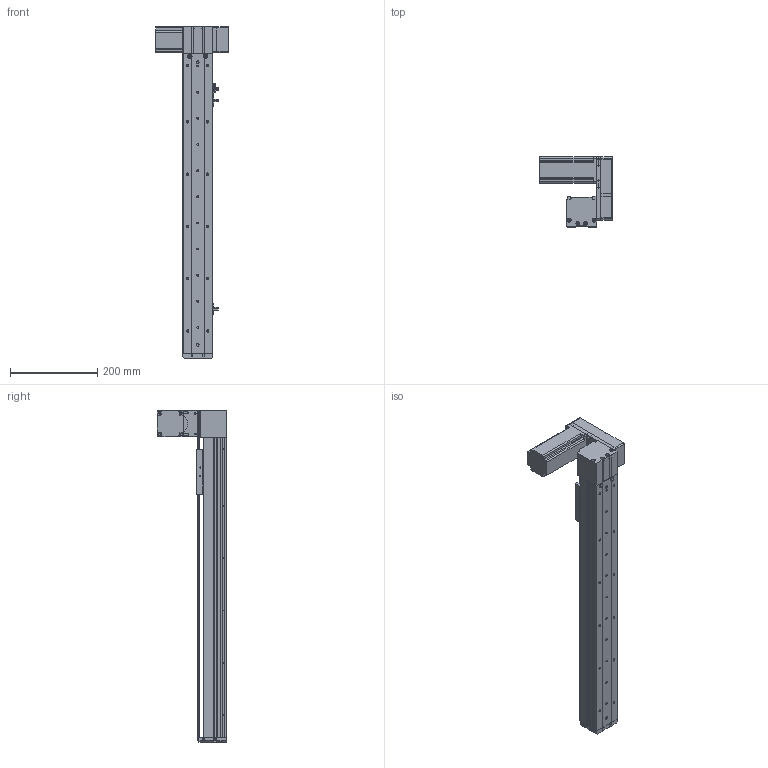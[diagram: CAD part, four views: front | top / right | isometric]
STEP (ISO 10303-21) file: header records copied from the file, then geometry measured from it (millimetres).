
FILE_DESCRIPTION (( 'STEP AP214' ), '1' );
FILE_NAME ('KSD68BS-S500-MLU-CM.STEP', '2019-10-19T09:25:52', ( '微软用户' ), ( '微软中国' ), 'SwSTEP 2.0', 'SolidWorks 2014', '' );
FILE_SCHEMA (( 'AUTOMOTIVE_DESIGN' ));
Length unit declared in the file: millimetre
Products named in the file (11): 悵誘欶奻狟殏; 68宽马达安装板连板上折同步带; 68宽单导轨半封闭同步带主动轮座左; 68单导轨同步带半封闭端板; KSD68BS 500俴最裔啣圉猾敕; 覜茼え68遵圉猾敕; KSD68BS半封闭同步带传动导轨座; U倰嫖萇EEㄜSX672; 台达ECMA－C20604AS伺服电机（400W); KSD68BS 500俴最菁啣圉猾敕; KSD68BS-S500-MLU-CM
Assembly tree (12 placements, depth 2):
  KSD68BS-S500-MLU-CM
    KSD68BS 500俴最菁啣圉猾敕
    台达ECMA－C20604AS伺服电机（400W)
    U倰嫖萇EEㄜSX672  x3
    KSD68BS半封闭同步带传动导轨座
    覜茼え68遵圉猾敕
    KSD68BS 500俴最裔啣圉猾敕
    68单导轨同步带半封闭端板
    68宽单导轨半封闭同步带主动轮座左
    68宽马达安装板连板上折同步带
    悵誘欶奻狟殏
Bounding box: 167.2 x 159.5 x 762 mm (x, y, z)
Volume: 1740080.4 mm3; surface area: 567233.2 mm2
Topology: 13 solids, 13 shells, 1294 faces, 3674 edges, 2386 vertices
Faces by surface type: cylinder 612, plane 599, cone 83
Entity records: 45390 total; most frequent: CARTESIAN_POINT 8362, DIRECTION 6144, ORIENTED_EDGE 6100, EDGE_CURVE 3050, AXIS2_PLACEMENT_3D 2208, VERTEX_POINT 2010, LINE 1728, VECTOR 1728
